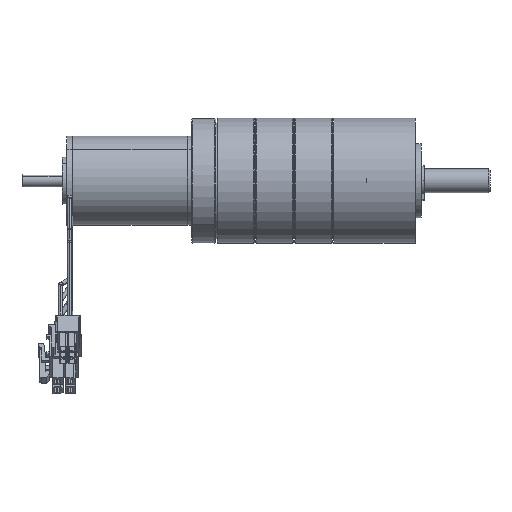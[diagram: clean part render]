
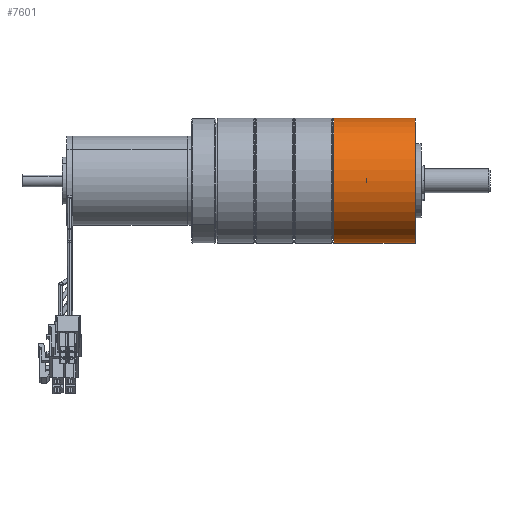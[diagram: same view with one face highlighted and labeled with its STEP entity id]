
A CAD part, front view. The second image highlights one B-rep face of the part: STEP entity #7601.
In plain terms, the highlighted cylindrical face has radius 21 mm (diameter 42 mm), a partial arc.
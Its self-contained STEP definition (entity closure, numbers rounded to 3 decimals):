
#135 = EDGE_CURVE ( 'NONE', #6190, #37314, #59521, .T. ) ;
#1880 = CARTESIAN_POINT ( 'NONE',  ( -2., 0., 21. ) ) ;
#3360 = VECTOR ( 'NONE', #28317, 1000. ) ;
#6190 = VERTEX_POINT ( 'NONE', #57275 ) ;
#6475 = DIRECTION ( 'NONE',  ( -1., 0., 0. ) ) ;
#7601 = ADVANCED_FACE ( 'NONE', ( #28421 ), #27676, .T. ) ;
#8181 = DIRECTION ( 'NONE',  ( 1., 0., 0. ) ) ;
#9638 = EDGE_LOOP ( 'NONE', ( #34592, #47925, #16270, #39800 ) ) ;
#10517 = DIRECTION ( 'NONE',  ( 0., 0., -1. ) ) ;
#14630 = VERTEX_POINT ( 'NONE', #1880 ) ;
#16270 = ORIENTED_EDGE ( 'NONE', *, *, #135, .T. ) ;
#16911 = CIRCLE ( 'NONE', #59675, 21. ) ;
#18390 = LINE ( 'NONE', #49537, #41080 ) ;
#18846 = CARTESIAN_POINT ( 'NONE',  ( -3.475, 0., -21. ) ) ;
#24933 = VERTEX_POINT ( 'NONE', #40317 ) ;
#25847 = EDGE_CURVE ( 'NONE', #37314, #24933, #16911, .T. ) ;
#27676 = CYLINDRICAL_SURFACE ( 'NONE', #41498, 21. ) ;
#27805 = DIRECTION ( 'NONE',  ( 0., 0., -1. ) ) ;
#28317 = DIRECTION ( 'NONE',  ( 1., 0., 0. ) ) ;
#28421 = FACE_OUTER_BOUND ( 'NONE', #9638, .T. ) ;
#31419 = AXIS2_PLACEMENT_3D ( 'NONE', #47595, #46974, #10517 ) ;
#32305 = EDGE_CURVE ( 'NONE', #14630, #24933, #18390, .T. ) ;
#34448 = CARTESIAN_POINT ( 'NONE',  ( 25.5, 0., 0. ) ) ;
#34501 = CARTESIAN_POINT ( 'NONE',  ( 25.5, 0., -21. ) ) ;
#34592 = ORIENTED_EDGE ( 'NONE', *, *, #32305, .F. ) ;
#34849 = DIRECTION ( 'NONE',  ( 0., 0., -1. ) ) ;
#35982 = CARTESIAN_POINT ( 'NONE',  ( -3.475, 0., 0. ) ) ;
#37314 = VERTEX_POINT ( 'NONE', #34501 ) ;
#39800 = ORIENTED_EDGE ( 'NONE', *, *, #25847, .T. ) ;
#40317 = CARTESIAN_POINT ( 'NONE',  ( 25.5, 0., 21. ) ) ;
#41080 = VECTOR ( 'NONE', #59116, 1000. ) ;
#41498 = AXIS2_PLACEMENT_3D ( 'NONE', #35982, #8181, #27805 ) ;
#46815 = CIRCLE ( 'NONE', #31419, 21. ) ;
#46974 = DIRECTION ( 'NONE',  ( 1., 0., 0. ) ) ;
#47595 = CARTESIAN_POINT ( 'NONE',  ( -2., 0., 0. ) ) ;
#47925 = ORIENTED_EDGE ( 'NONE', *, *, #55890, .T. ) ;
#49537 = CARTESIAN_POINT ( 'NONE',  ( -3.475, 0., 21. ) ) ;
#55890 = EDGE_CURVE ( 'NONE', #14630, #6190, #46815, .T. ) ;
#57275 = CARTESIAN_POINT ( 'NONE',  ( -2., 0., -21. ) ) ;
#59116 = DIRECTION ( 'NONE',  ( 1., 0., 0. ) ) ;
#59521 = LINE ( 'NONE', #18846, #3360 ) ;
#59675 = AXIS2_PLACEMENT_3D ( 'NONE', #34448, #6475, #34849 ) ;
